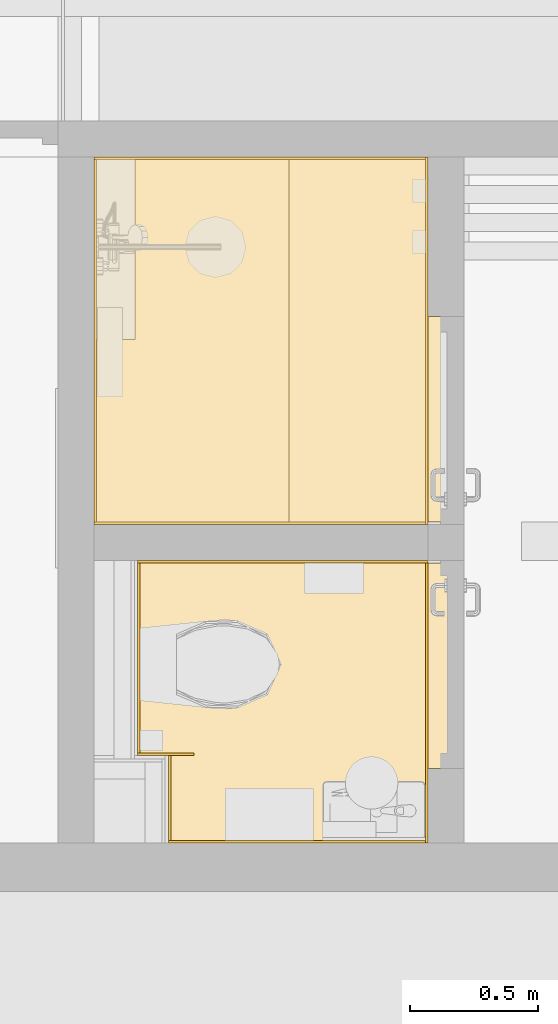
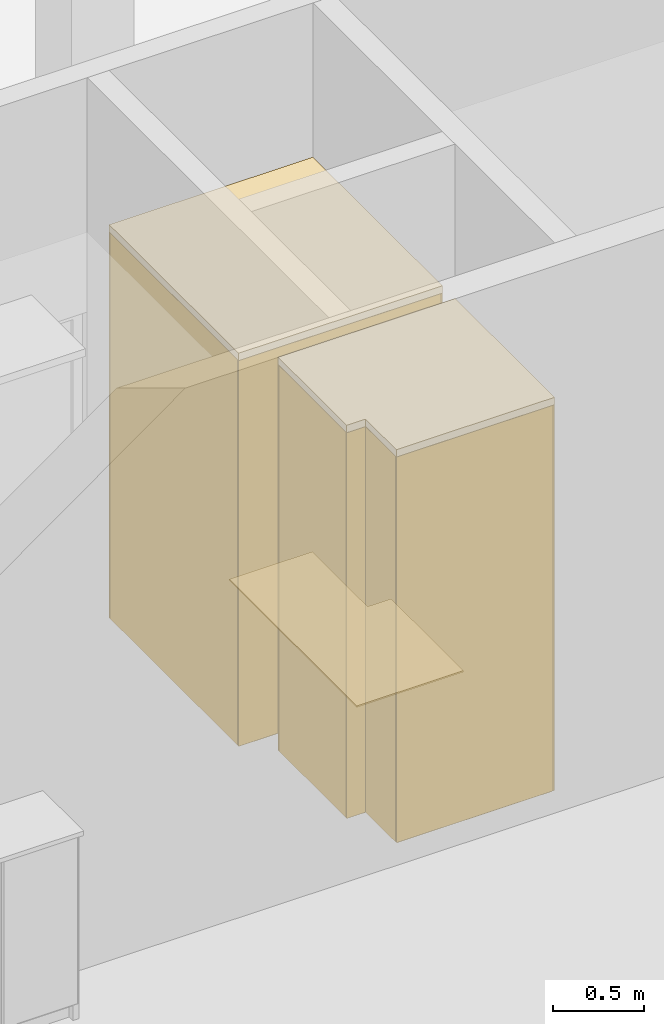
# One storey, part 237 of 301: 15 coverings, 2 openings.
"""IFC2X3 building model written with IfcOpenShell, lengths in millimetres."""

from ifc_helpers import new_model, entity, si_unit, converted_unit, derived_unit, money_unit, direction, frame, origin_with_axes, place, context, subcontext, project, spatial, faceted_brep, material, type_object, element, save


model = new_model("IFC2X3")

# Units and contexts
model_context = context("Model", 3, precision=0.01, world=origin_with_axes(), true_north=direction((0.0, 1.0)))
body_context = subcontext(model_context, "Body", "Model", "MODEL_VIEW")
ifc_project = project(units=[si_unit("LENGTHUNIT", "METRE", prefix="MILLI"), si_unit("AREAUNIT", "SQUARE_METRE"), si_unit("VOLUMEUNIT", "CUBIC_METRE"), converted_unit("PLANEANGLEUNIT", "DEGREE", entity("IfcPlaneAngleMeasure", 0.0174532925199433), si_unit("PLANEANGLEUNIT", "RADIAN"), dimensions=[0, 0, 0, 0, 0, 0, 0]), money_unit("EUR"), converted_unit("TIMEUNIT", "Year", entity("IfcTimeMeasure", 31557600.0), si_unit("TIMEUNIT", "SECOND"), dimensions=[0, 0, 1, 0, 0, 0, 0]), si_unit("MASSUNIT", "GRAM", prefix="KILO"), si_unit("THERMODYNAMICTEMPERATUREUNIT", "DEGREE_CELSIUS"), si_unit("LUMINOUSINTENSITYUNIT", "LUMEN"), si_unit("ENERGYUNIT", "JOULE", prefix="MEGA"), derived_unit("THERMALCONDUCTANCEUNIT", [(si_unit("POWERUNIT", "WATT"), 1), (si_unit("LENGTHUNIT", "METRE"), -1), (si_unit("THERMODYNAMICTEMPERATUREUNIT", "KELVIN"), -1)]), derived_unit("SPECIFICHEATCAPACITYUNIT", [(si_unit("ENERGYUNIT", "JOULE"), 1), (si_unit("MASSUNIT", "GRAM", prefix="KILO"), -1), (si_unit("THERMODYNAMICTEMPERATUREUNIT", "KELVIN"), -1)]), derived_unit("MASSDENSITYUNIT", [(si_unit("MASSUNIT", "GRAM", prefix="KILO"), 1), (si_unit("VOLUMEUNIT", "CUBIC_METRE"), -1)])], contexts=[model_context])

# Site, building, storey
site_placement = place(None, frame((0.0, 0.0, 8650.0), z_axis=(0.0, 0.0, 1.0), x_axis=(1.0, 0.0, 0.0)))
site = spatial("IfcSite", under=ifc_project, at=site_placement, Name="43301:001:0844", CompositionType="ELEMENT")
building_placement = place(site_placement, origin_with_axes())
building = spatial("IfcBuilding", under=site, at=building_placement, Name="Kuressaare Ametikooli tuulikute mehaanikute õppekorpus", CompositionType="ELEMENT")
storey_placement = place(building_placement, origin_with_axes())
storey = spatial("IfcBuildingStorey", under=building, at=storey_placement, Name="1.korrus", CompositionType="ELEMENT", Elevation=0.0)

# Coverings
ifc_material_1 = material(Name="GENEERILINE - KONSTRUKTRIOON")
covering_type_1 = type_object("IfcCoveringType", Name="GENEERILINE - KONSTRUKTRIOON 50", PredefinedType="CEILING")
covering_1_placement = place(storey_placement, frame((116905.2601146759, 19194.83622676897, 2600.0), z_axis=(0.0, 0.0, 1.0), x_axis=(1.0, 0.0, 0.0)))
element("IfcCovering", 1, at=covering_1_placement, inside=storey, type_object=covering_type_1, material=ifc_material_1, Name="RL2", PredefinedType="CEILING", context=body_context, shape_type="Brep", body=[
    faceted_brep([(0.0, 0.0, 49.99999999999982), (0.0, 0.0, 0.0), (1300.000850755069, 0.0, 0.0), (1300.000850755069, 0.0, 49.99999999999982), (0.0, 1430.000221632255, 49.99999999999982), (0.0, 1430.000221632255, 0.0), (1300.000850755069, 1430.000221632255, 0.0), (1300.000850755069, 1430.000221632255, 49.99999999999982)], [[[0, 1, 2, 3]], [[4, 5, 1, 0]], [[2, 1, 5, 6]], [[3, 2, 6, 7]], [[4, 0, 3, 7]], [[7, 6, 5, 4]]]),
])
covering_2_placement = place(storey_placement, frame((117075.2607170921, 18294.83807443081, 2600.0), z_axis=(0.0, 0.0, 1.0), x_axis=(1.0, 0.0, 0.0)))
element("IfcCovering", 2, at=covering_2_placement, inside=storey, type_object=covering_type_1, material=ifc_material_1, Name="RL2", PredefinedType="CEILING", context=body_context, shape_type="Brep", body=[
    faceted_brep([(0.0, 0.0, 49.99999999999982), (0.0, 0.0, 0.0), (120.0003788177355, 0.0, 0.0), (120.0003788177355, 0.0, 49.99999999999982), (0.0, 759.9982625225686, 49.99999999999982), (0.0, 759.9982625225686, 0.0), (1130.000736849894, 759.9982625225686, 0.0), (1130.000736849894, -340.001737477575, 0.0), (120.0003788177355, -340.001737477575, 0.0), (120.0003788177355, -340.001737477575, 49.99999999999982), (1130.000736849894, -340.001737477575, 49.99999999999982), (1130.000736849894, 759.9982625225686, 49.99999999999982)], [[[0, 1, 2, 3]], [[4, 5, 1, 0]], [[2, 1, 5, 6, 7, 8]], [[3, 2, 8, 9]], [[4, 0, 3, 9, 10, 11]], [[11, 6, 5, 4]], [[10, 7, 6, 11]], [[9, 8, 7, 10]]]),
])
ifc_material_2 = material(Name="SA_viimistluskiht")
covering_type_2 = type_object("IfcCoveringType", Name="SA_viimistluskiht 10", PredefinedType="CLADDING")
covering_3_placement = place(storey_placement, frame((116905.2601146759, 20624.83644840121, 0.0), z_axis=(0.0, 0.0, 1.0), x_axis=(-1.073625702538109e-07, -0.9999999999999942, 0.0)))
element("IfcCovering", 3, at=covering_3_placement, inside=storey, type_object=covering_type_2, material=ifc_material_2, Name="S3", PredefinedType="CLADDING", context=body_context, shape_type="Brep", body=[
    faceted_brep([(1420.000130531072, 0.003306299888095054, 2600.0), (1420.000129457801, 10.00000000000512, 2600.0), (10.00000029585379, 10.00000000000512, 2600.0), (9.999999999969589, 2.328380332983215e-05, 2600.0), (1420.000129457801, 10.00000000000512, 0.0), (1420.000130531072, 0.003306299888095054, 0.0), (10.00000029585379, 10.00000000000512, 0.0), (9.999999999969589, 2.328380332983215e-05, 0.0)], [[[0, 1, 2, 3]], [[4, 1, 0, 5]], [[1, 4, 6, 2]], [[3, 2, 6, 7]], [[5, 0, 3, 7]], [[4, 5, 7, 6]]]),
])
covering_4_placement = place(storey_placement, frame((116905.2601146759, 20624.83644840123, 0.0), z_axis=(0.0, 0.0, 1.0), x_axis=(0.9999999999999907, -1.369512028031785e-07, 0.0)))
element("IfcCovering", 4, at=covering_4_placement, inside=storey, type_object=covering_type_2, material=ifc_material_2, Name="S3", PredefinedType="CLADDING", context=body_context, shape_type="Brep", body=[
    faceted_brep([(1290.000321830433, -9.999999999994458, 2600.0), (1290.000321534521, 0.001169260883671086, 2600.0), (-1.890043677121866e-09, 0.000813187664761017, 2600.0), (2.357970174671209e-05, -9.99999999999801, 2600.0), (1290.000321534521, 0.001169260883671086, 0.0), (1290.000321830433, -9.99999999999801, 0.0), (-1.890043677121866e-09, 0.000813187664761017, 0.0), (2.357970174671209e-05, -10.00000000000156, 0.0)], [[[0, 1, 2, 3]], [[4, 1, 0, 5]], [[1, 4, 6, 2]], [[3, 2, 6, 7]], [[5, 0, 3, 7]], [[4, 5, 7, 6]]]),
])
covering_5_placement = place(storey_placement, frame((116905.2599611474, 19194.83631786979, 0.0), z_axis=(0.0, 0.0, 1.0), x_axis=(0.999999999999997, -7.777395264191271e-08, 0.0)))
element("IfcCovering", 5, at=covering_5_placement, inside=storey, type_object=covering_type_2, material=ifc_material_2, Name="S3", PredefinedType="CLADDING", context=body_context, shape_type="Brep", body=[
    faceted_brep([(1290.000321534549, 2.958913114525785e-07, 2600.0), (1290.000321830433, 10.00010032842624, 2600.0), (0.003306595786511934, 10.00000000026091, 2600.0), (0.003329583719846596, 2.593480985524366e-10, 2600.0), (1290.000321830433, 10.00010032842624, 0.0), (1290.000321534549, 2.958913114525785e-07, 0.0), (0.003306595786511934, 10.00000000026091, 0.0), (0.003329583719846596, 2.593480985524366e-10, 0.0)], [[[0, 1, 2, 3]], [[4, 1, 0, 5]], [[1, 4, 6, 2]], [[3, 2, 6, 7]], [[5, 0, 3, 7]], [[4, 5, 7, 6]]]),
])

# Covering, opening
covering_6_placement = place(storey_placement, frame((118205.2609336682, 17954.83763523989, 0.0), z_axis=(0.0, 0.0, 1.0), x_axis=(1.073625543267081e-07, 0.9999999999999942, 0.0)))
covering_6 = element("IfcCovering", 6, at=covering_6_placement, inside=storey, type_object=covering_type_2, material=ifc_material_2, Name="S3", PredefinedType="CLADDING", context=body_context, shape_type="Brep", body=[
    faceted_brep([(289.9983343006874, 0.0, 0.0), (289.9983343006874, 0.0, 2110.0), (1089.998288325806, 0.0, 2110.0), (1089.998288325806, 0.0002012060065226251, 2600.0), (0.0, 0.0, 2600.0), (0.0, 0.0, 0.0), (289.9983343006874, 10.00000000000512, 0.0), (289.9983343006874, 10.00000000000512, 2110.0), (1089.99829091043, 10.00000000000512, 2110.0), (1089.99829091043, 10.00000000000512, 2600.0), (0.0, 10.00000000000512, 2600.0), (0.0, 10.00000000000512, 0.0)], [[[0, 1, 2, 3, 4, 5]], [[1, 0, 6, 7]], [[8, 2, 1, 7]], [[2, 8, 9, 3]], [[9, 10, 4, 3]], [[5, 4, 10, 11]], [[6, 0, 5, 11]], [[7, 6, 11, 10, 9, 8]]]),
])
opening_1_placement = place(covering_6_placement, frame((694.9983343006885, 0.0, 0.0), z_axis=(0.0, 0.0, 1.0), x_axis=(1.0, 0.0, 0.0)))
element("IfcOpeningElement", 7, at=opening_1_placement, cuts=covering_6, Name="ava", context=body_context, shape_type="Brep", body=[
    faceted_brep([(404.9999999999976, 0.0, 0.0), (404.9999999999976, 0.0, 2110.0), (405.0000000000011, -1.000118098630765, 2110.0), (405.0000000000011, -1.000118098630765, 0.0), (404.9999999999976, 11.00011809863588, 0.0), (404.9999999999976, 11.00011809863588, 2110.0), (-405.0000000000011, 0.0, 2110.0), (-405.0000000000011, -1.000118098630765, 2110.0), (-405.0000000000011, -1.000118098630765, 0.0), (-405.0000000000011, 0.0, 0.0), (-405.0000000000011, 11.00011809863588, 0.0), (-405.0000000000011, 11.00011809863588, 2110.0)], [[[0, 1, 2, 3]], [[1, 0, 4, 5]], [[1, 6, 7, 2]], [[8, 3, 2, 7]], [[9, 0, 3, 8]], [[0, 9, 10, 4]], [[5, 4, 10, 11]], [[6, 1, 5, 11]], [[6, 9, 8, 7]], [[9, 6, 11, 10]]]),
])

covering_7_placement = place(storey_placement, frame((118205.2602826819, 19194.83621676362, 0.0), z_axis=(0.0, 0.0, 1.0), x_axis=(1.073625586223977e-07, 0.9999999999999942, 0.0)))
covering_7 = element("IfcCovering", 8, at=covering_7_placement, inside=storey, type_object=covering_type_2, material=ifc_material_2, Name="S3", PredefinedType="CLADDING", context=body_context, shape_type="Brep", body=[
    faceted_brep([(810.0000000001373, 0.0, 2110.0), (810.0000000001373, 0.0, 0.0), (1430.001222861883, 0.0, 0.0), (1430.001222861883, 0.0, 2600.0), (0.0, 0.0, 2600.0), (1.385558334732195e-10, 0.0, 2110.0), (810.0000000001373, 10.00000000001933, 2110.0), (810.0000000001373, 10.00000000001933, 0.0), (1430.001220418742, 10.00000000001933, 0.0), (1430.001220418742, 10.00000000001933, 2600.0), (0.0, 10.00000000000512, 2600.0), (1.35003119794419e-10, 10.00000000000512, 2110.0)], [[[0, 1, 2, 3, 4, 5]], [[1, 0, 6, 7]], [[1, 7, 8, 2]], [[3, 2, 8, 9]], [[9, 10, 4, 3]], [[11, 5, 4, 10]], [[0, 5, 11, 6]], [[6, 11, 10, 9, 8, 7]]]),
])
opening_2_placement = place(covering_7_placement, frame((405.0000000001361, 0.0, 0.0), z_axis=(0.0, 0.0, 1.0), x_axis=(1.0, 0.0, 0.0)))
element("IfcOpeningElement", 9, at=opening_2_placement, cuts=covering_7, Name="ava", context=body_context, shape_type="Brep", body=[
    faceted_brep([(405.0000000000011, 0.0, 0.0), (405.0000000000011, 0.0, 2110.0), (404.9999999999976, -1.000153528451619, 2110.0), (404.9999999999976, -1.000153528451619, 0.0), (404.9999999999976, 11.00015352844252, 0.0), (404.9999999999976, 11.00015352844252, 2110.0), (-404.9999999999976, 0.0, 2110.0), (-405.0000000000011, -1.00015352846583, 2110.0), (-405.0000000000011, -1.00015352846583, 0.0), (-404.9999999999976, 0.0, 0.0), (-404.9999999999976, 11.00015352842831, 0.0), (-404.9999999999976, 11.00015352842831, 2110.0)], [[[0, 1, 2, 3]], [[1, 0, 4, 5]], [[1, 6, 7, 2]], [[8, 3, 2, 7]], [[9, 0, 3, 8]], [[0, 9, 10, 4]], [[5, 4, 10, 11]], [[6, 1, 5, 11]], [[6, 9, 8, 7]], [[9, 6, 11, 10]]]),
])

# Coverings
covering_8_placement = place(storey_placement, frame((117195.2611525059, 17954.83633695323, 0.0), z_axis=(0.0, 0.0, 1.0), x_axis=(0.9999999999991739, 1.285432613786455e-06, 0.0)))
element("IfcCovering", 10, at=covering_8_placement, inside=storey, type_object=covering_type_2, material=ifc_material_2, Name="S3", PredefinedType="CLADDING", context=body_context, shape_type="Brep", body=[
    faceted_brep([(999.9997811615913, -0.001063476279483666, 2600.0), (999.9997950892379, 9.998714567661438, 2600.0), (9.525166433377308e-06, 9.99999999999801, 2600.0), (0.0, 3.888058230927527e-05, 2600.0), (999.9997950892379, 9.998714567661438, 0.0), (999.9997811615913, -0.001063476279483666, 0.0), (9.525166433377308e-06, 9.99999999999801, 0.0), (0.0, 3.888058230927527e-05, 0.0)], [[[0, 1, 2, 3]], [[4, 1, 0, 5]], [[1, 4, 6, 2]], [[3, 2, 6, 7]], [[5, 0, 3, 7]], [[4, 5, 7, 6]]]),
])
covering_9_placement = place(storey_placement, frame((117075.2607862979, 19054.83633695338, 0.0), z_axis=(0.0, 0.0, 1.0), x_axis=(3.32916360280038e-07, -0.9999999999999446, 0.0)))
element("IfcCovering", 11, at=covering_9_placement, inside=storey, type_object=covering_type_2, material=ifc_material_2, Name="S3", PredefinedType="CLADDING", context=body_context, shape_type="Brep", body=[
    faceted_brep([(749.9981826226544, 0.0, 2600.0), (749.9981926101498, 10.00000000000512, 2600.0), (10.00000698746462, 10.00000000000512, 2600.0), (10.00000000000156, 0.0, 2600.0), (749.9981926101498, 10.00000000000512, 0.0), (749.9981826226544, 0.0, 0.0), (10.00000698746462, 10.00000000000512, 0.0), (10.00000000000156, 0.0, 0.0)], [[[0, 1, 2, 3]], [[4, 1, 0, 5]], [[1, 4, 6, 2]], [[3, 2, 6, 7]], [[5, 0, 3, 7]], [[4, 5, 7, 6]]]),
])
covering_10_placement = place(storey_placement, frame((117075.2607862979, 19054.83633695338, 0.0), z_axis=(0.0, 0.0, 1.0), x_axis=(0.9999999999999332, -3.658297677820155e-07, 0.0)))
element("IfcCovering", 12, at=covering_10_placement, inside=storey, type_object=covering_type_2, material=ifc_material_2, Name="S3", PredefinedType="CLADDING", context=body_context, shape_type="Brep", body=[
    faceted_brep([(1130.000064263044, -2.230619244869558e-05, 0.0), (0.0, -0.0001149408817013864, 0.0), (0.0, -0.0001101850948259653, 2600.0), (1130.000064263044, -2.230619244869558e-05, 2600.0), (1130.000070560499, -9.999999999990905, 0.0), (6.98746305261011e-06, -9.999999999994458, 0.0), (6.98746305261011e-06, -9.999999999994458, 2600.0), (1130.000070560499, -9.999999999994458, 2600.0)], [[[0, 1, 2, 3]], [[4, 5, 1, 0]], [[5, 6, 2, 1]], [[3, 2, 6, 7]], [[4, 0, 3, 7]], [[7, 6, 5, 4]]]),
])
covering_11_placement = place(storey_placement, frame((117195.2610393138, 18294.8380744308, 0.0), z_axis=(0.0, 0.0, 1.0), x_axis=(-3.329166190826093e-07, -0.9999999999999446, 0.0)))
element("IfcCovering", 13, at=covering_11_placement, inside=storey, type_object=covering_type_2, material=ifc_material_2, Name="S3", PredefinedType="CLADDING", context=body_context, shape_type="Brep", body=[
    faceted_brep([(0.0001419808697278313, 10.00000000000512, 0.0), (0.0001419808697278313, 10.00000000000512, 2600.0), (330.0017341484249, 9.999999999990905, 2600.0), (330.0017341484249, 9.999999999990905, 0.0), (0.0001386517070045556, 6.462599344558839e-06, 2600.0), (0.0001386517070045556, 6.462599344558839e-06, 0.0), (330.0017374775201, 0.0002197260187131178, 2600.0), (330.0017374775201, 0.0002197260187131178, 0.0)], [[[0, 1, 2, 3]], [[4, 1, 0, 5]], [[1, 4, 6, 2]], [[3, 2, 6, 7]], [[5, 0, 3, 7]], [[4, 5, 7, 6]]]),
])
covering_12_placement = place(storey_placement, frame((117075.2599353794, 18294.83815433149, 0.0), z_axis=(0.0, 0.0, 1.0), x_axis=(0.9999999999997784, -6.658329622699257e-07, 0.0)))
element("IfcCovering", 14, at=covering_12_placement, inside=storey, type_object=covering_type_2, material=ifc_material_2, Name="S3", PredefinedType="CLADDING", context=body_context, shape_type="Brep", body=[
    faceted_brep([(0.001093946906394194, 9.99999999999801, 0.0), (0.001093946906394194, 9.99999999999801, 2600.0), (220.0011039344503, 9.99999999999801, 2600.0), (220.0011039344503, 9.99999999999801, 0.0), (0.001103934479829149, -7.989994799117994e-05, 2600.0), (0.001103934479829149, -7.989994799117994e-05, 0.0), (220.0011039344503, 0.0, 2600.0), (220.0011039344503, 0.0, 0.0)], [[[0, 1, 2, 3]], [[4, 1, 0, 5]], [[1, 4, 6, 2]], [[3, 2, 6, 7]], [[5, 0, 3, 7]], [[4, 5, 7, 6]]]),
])
covering_type_3 = type_object("IfcCoveringType", Name="GENEERILINE - KONSTRUKTRIOON 10", PredefinedType="FLOORING")
covering_13_placement = place(storey_placement, frame((118345.2605989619, 20004.83621676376, 0.0), z_axis=(0.0, 0.0, 1.0), x_axis=(1.0, 0.0, 0.0)))
element("IfcCovering", 15, at=covering_13_placement, inside=storey, type_object=covering_type_3, material=ifc_material_1, Name="P3b", PredefinedType="FLOORING", context=body_context, shape_type="Brep", body=[
    faceted_brep([(0.0, 0.0, 0.0), (0.0, 0.0, -10.0), (-150.0002310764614, 0.0, -10.0), (-150.0002310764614, 0.0, 0.0), (4.261738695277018e-05, -799.9998796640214, 0.0), (4.261738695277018e-05, -799.9998796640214, -10.0), (-680.0003053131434, -799.9998796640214, -10.0), (-680.0001599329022, 610.0000596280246, -10.0), (-150.0001719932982, 609.9999775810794, -10.0), (-150.0001719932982, 609.9999775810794, 0.0), (-680.0001599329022, 610.0000596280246, 0.0), (-680.0003053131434, -799.9998796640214, 0.0)], [[[0, 1, 2, 3]], [[4, 5, 1, 0]], [[2, 1, 5, 6, 7, 8]], [[3, 2, 8, 9]], [[4, 0, 3, 9, 10, 11]], [[11, 6, 5, 4]], [[10, 7, 6, 11]], [[9, 8, 7, 10]]]),
])
covering_14_placement = place(storey_placement, frame((117065.2593038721, 20614.83625491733, 0.0), z_axis=(0.0, 0.0, 1.0), x_axis=(1.0, 0.0, 0.0)))
element("IfcCovering", 16, at=covering_14_placement, inside=storey, type_object=covering_type_3, material=ifc_material_1, Name="P3b", PredefinedType="FLOORING", context=body_context, shape_type="Brep", body=[
    faceted_brep([(0.0, 0.0, 0.0), (0.0, 0.0, -10.0), (0.0008097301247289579, -699.9998614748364, -10.0), (0.0008097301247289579, -699.9998614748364, 0.0), (600.0011351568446, -9.459769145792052e-05, 0.0), (600.0011351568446, -9.459769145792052e-05, -10.0), (600.000989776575, -1410.000024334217, -10.0), (-150.0001392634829, -1410.000047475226, -10.0), (-150.0001392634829, -700.0000532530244, -10.0), (-150.0001392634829, -700.0000532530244, 0.0), (-150.0001392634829, -1410.000047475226, 0.0), (600.000989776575, -1410.000024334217, 0.0)], [[[0, 1, 2, 3]], [[4, 5, 1, 0]], [[2, 1, 5, 6, 7, 8]], [[3, 2, 8, 9]], [[4, 0, 3, 9, 10, 11]], [[11, 6, 5, 4]], [[10, 7, 6, 11]], [[9, 8, 7, 10]]]),
])
covering_15_placement = place(storey_placement, frame((118195.260981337, 17964.83649004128, 0.0), z_axis=(0.0, 0.0, 1.0), x_axis=(1.0, 0.0, 0.0)))
element("IfcCovering", 17, at=covering_15_placement, inside=storey, type_object=covering_type_3, material=ifc_material_1, Name="P3a", PredefinedType="FLOORING", context=body_context, shape_type="Brep", body=[
    faceted_brep([(0.0, 0.0, 0.0), (0.0, 0.0, -10.0), (-1.653384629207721e-05, 279.999480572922, -10.0), (-1.653384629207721e-05, 279.999480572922, 0.0), (-989.9999420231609, 0.0, 0.0), (-989.9999420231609, 0.0, -10.0), (-989.9999420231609, 340.0010957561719, -10.0), (-1110.000422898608, 340.0010957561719, -10.0), (-1110.000422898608, 1079.999846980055, -10.0), (150.0000444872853, 1079.999846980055, -10.0), (149.9999585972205, 279.9994894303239, -10.0), (149.9999585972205, 279.9994894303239, 0.0), (150.0000444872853, 1079.999846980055, 0.0), (-1110.000422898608, 1079.999846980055, 0.0), (-1110.000422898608, 340.0010957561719, 0.0), (-989.9999420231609, 340.0010957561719, 0.0)], [[[0, 1, 2, 3]], [[4, 5, 1, 0]], [[2, 1, 5, 6, 7, 8, 9, 10]], [[3, 2, 10, 11]], [[4, 0, 3, 11, 12, 13, 14, 15]], [[15, 6, 5, 4]], [[14, 7, 6, 15]], [[13, 8, 7, 14]], [[12, 9, 8, 13]], [[11, 10, 9, 12]]]),
])

save(model, "model.ifc")
